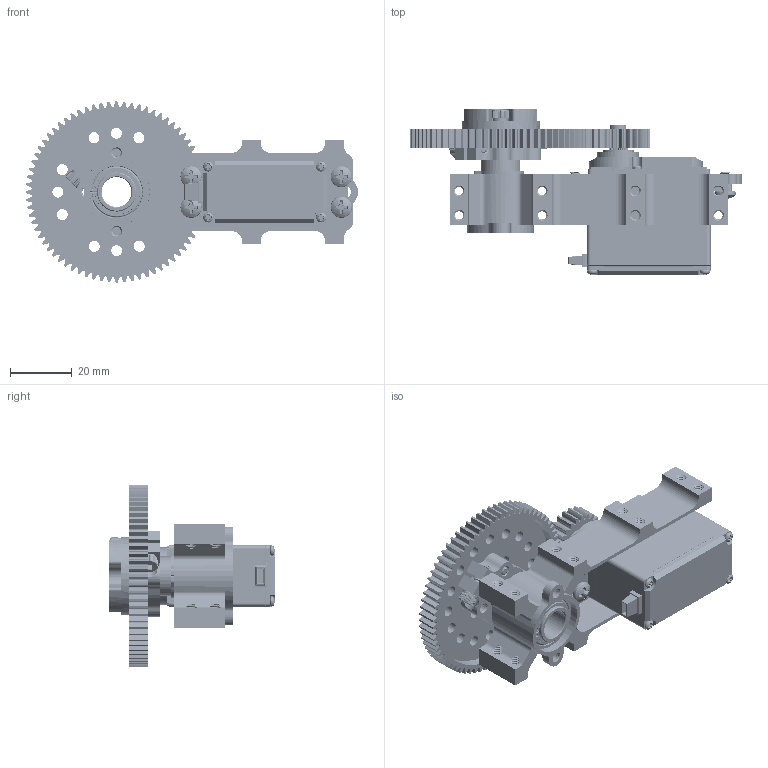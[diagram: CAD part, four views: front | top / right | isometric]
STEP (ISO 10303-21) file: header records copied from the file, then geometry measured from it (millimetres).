
FILE_DESCRIPTION (( 'STEP AP203' ), '1' );
FILE_NAME ('SG20-30.STEP', '2020-06-25T20:14:27', ( '' ), ( '' ), 'SwSTEP 2.0', 'SolidWorks 2016', '' );
FILE_SCHEMA (( 'CONFIG_CONTROL_DESIGN' ));
Length unit declared in the file: millimetre
Products named in the file (9): 615306_Gear Blank; 615198_Gear Blank; 545600; SG20-30; 545440; 545600 assembly; SG20 Part; 632114_90128A121; 632110_90128A121
Assembly tree (8 placements, depth 3):
  SG20-30
    SG20 Part
    545440
    615198_Gear Blank
    615306_Gear Blank
    632114_90128A121
    545600 assembly
      545600
      632110_90128A121
Bounding box: 107.63 x 53.7 x 58.74 mm (x, y, z)
Volume: 58640.8 mm3; surface area: 43457 mm2
Topology: 30 solids, 32 shells, 6233 faces, 16352 edges, 10162 vertices
Faces by surface type: cylinder 2857, bspline 1471, plane 1132, torus 357, cone 318, sphere 98
Entity records: 307713 total; most frequent: CARTESIAN_POINT 170670, ORIENTED_EDGE 32544, DIRECTION 24051, EDGE_CURVE 16272, VERTEX_POINT 10152, AXIS2_PLACEMENT_3D 9268, EDGE_LOOP 6430, FACE_OUTER_BOUND 6233
